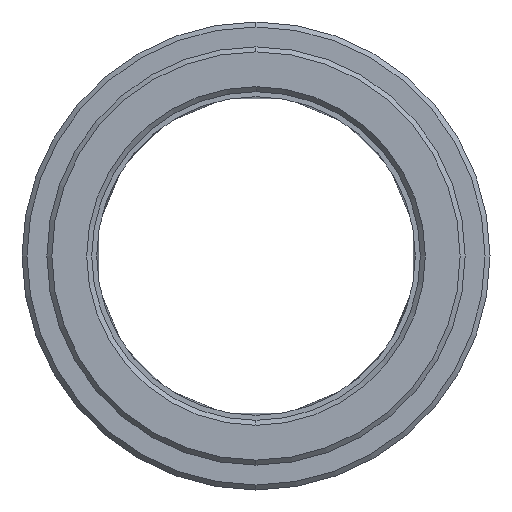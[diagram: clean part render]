
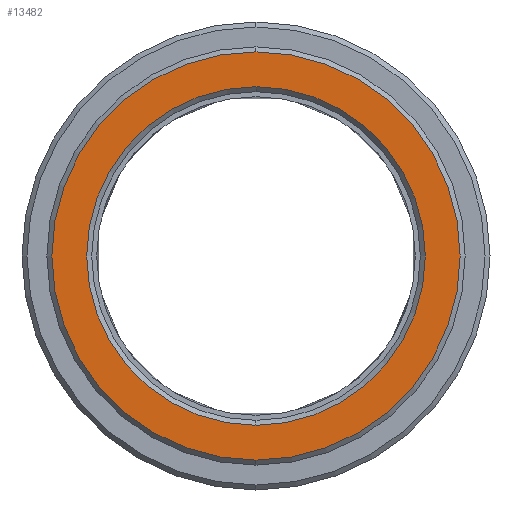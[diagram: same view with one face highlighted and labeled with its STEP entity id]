
A CAD part, left-side view. The second image highlights one B-rep face of the part: STEP entity #13482.
In plain terms, the highlighted planar face has unit normal (-1, 0, 0).
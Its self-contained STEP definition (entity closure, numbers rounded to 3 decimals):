
#5410=CARTESIAN_POINT('',(-8.,0.,
0.));
#5411=DIRECTION('',(1.,0.,0.));
#5412=DIRECTION('',(0.,0.,1.));
#5413=AXIS2_PLACEMENT_3D('',#5410,#5411,#5412);
#5415=CARTESIAN_POINT('',(-8.,0.,
0.));
#5416=DIRECTION('',(1.,0.,0.));
#5417=DIRECTION('',(0.,0.,-1.));
#5418=AXIS2_PLACEMENT_3D('',#5415,#5416,#5417);
#5420=CARTESIAN_POINT('',(-8.,0.,
0.));
#5421=DIRECTION('',(1.,0.,0.));
#5422=DIRECTION('',(0.,0.,1.));
#5423=AXIS2_PLACEMENT_3D('',#5420,#5421,#5422);
#5425=CARTESIAN_POINT('',(-8.,0.,
0.));
#5426=DIRECTION('',(1.,0.,0.));
#5427=DIRECTION('',(0.,0.,-1.));
#5428=AXIS2_PLACEMENT_3D('',#5425,#5426,#5427);
#11484=CARTESIAN_POINT('',(-8.,0.,17.));
#11485=CARTESIAN_POINT('',(-8.,0.,
-17.));
#11486=VERTEX_POINT('',#11484);
#11487=VERTEX_POINT('',#11485);
#11492=CARTESIAN_POINT('',(-8.,0.,20.5));
#11493=CARTESIAN_POINT('',(-8.,0.,-20.5));
#11494=VERTEX_POINT('',#11492);
#11495=VERTEX_POINT('',#11493);
#13466=CARTESIAN_POINT('',(-8.,0.,0.));
#13467=DIRECTION('',(1.,0.,0.));
#13468=DIRECTION('',(0.,0.,1.));
#13469=AXIS2_PLACEMENT_3D('',#13466,#13467,#13468);
#13470=PLANE('',#13469);
#13472=ORIENTED_EDGE('',*,*,#13471,.T.);
#13474=ORIENTED_EDGE('',*,*,#13473,.T.);
#13475=EDGE_LOOP('',(#13472,#13474));
#13476=FACE_OUTER_BOUND('',#13475,.F.);
#13478=ORIENTED_EDGE('',*,*,#13477,.F.);
#13479=ORIENTED_EDGE('',*,*,#13456,.F.);
#13480=EDGE_LOOP('',(#13478,#13479));
#13481=FACE_BOUND('',#13480,.F.);
#13482=ADVANCED_FACE('',(#13476,#13481),#13470,.F.);
#5414=CIRCLE('',#5413,20.5);
#5419=CIRCLE('',#5418,20.5);
#5424=CIRCLE('',#5423,17.);
#5429=CIRCLE('',#5428,17.);
#13456=EDGE_CURVE('',#11487,#11486,#5429,.T.);
#13471=EDGE_CURVE('',#11494,#11495,#5414,.T.);
#13473=EDGE_CURVE('',#11495,#11494,#5419,.T.);
#13477=EDGE_CURVE('',#11486,#11487,#5424,.T.);
